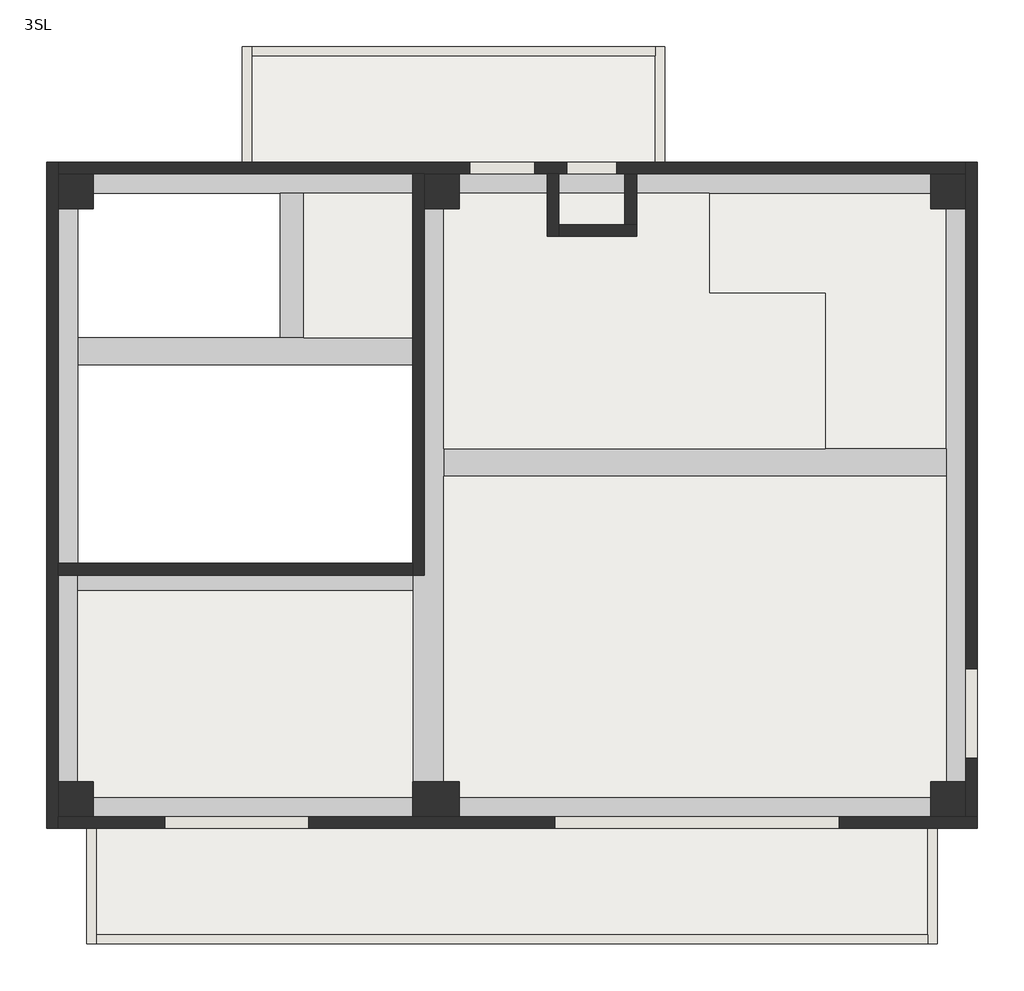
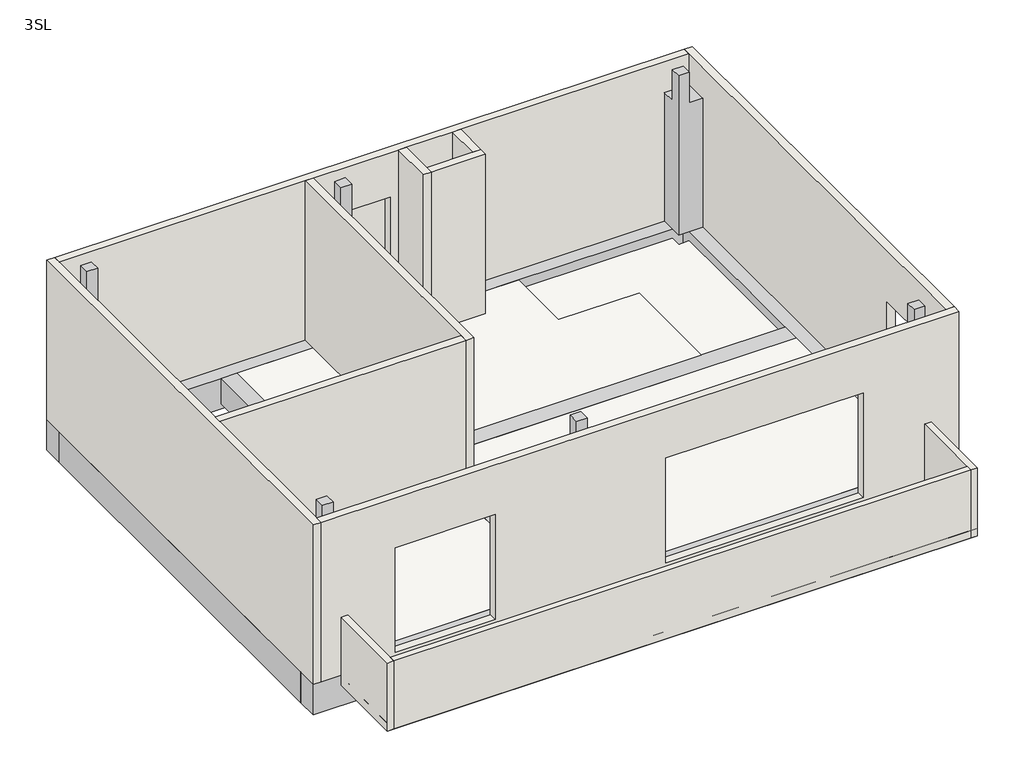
# One storey: 15 walls, 11 beams, 7 slabs, 6 columns.
"""IFC4 building model written with IfcOpenShell, lengths in millimetres."""

from ifc_helpers import new_model, si_unit, frame, origin, place, context, project, spatial, polyline, outline, extrude, faceted_brep, element, save

model = new_model("IFC4")

# Units and contexts
model_context = context("Model", 3, world=origin())
ifc_project = project(units=[si_unit("LENGTHUNIT", "METRE", prefix="MILLI")], contexts=[model_context])

# Site, building, storey
site = spatial("IfcSite", under=ifc_project)
building = spatial("IfcBuilding", under=site)
storey = spatial("IfcBuildingStorey", under=building, Name="3SL", Elevation=6540.0)

# Beams
placement = place(None, origin())
element("IfcBeam", 1, ObjectType="コンクリート-長方形梁 : B1-350x550", at=placement, inside=storey, context=model_context, shape_type="Brep", body=[
    faceted_brep([(325.0, 6225.0, 6540.0), (325.0, 5875.0, 6540.0), (4625.0, 5875.0, 6540.0), (4625.0, 6225.0, 6540.0), (3225.0, 6225.0, 6540.0), (2925.0, 6225.0, 6540.0), (325.0, 5875.0, 5990.0), (4625.0, 5875.0, 5990.0), (325.0, 6225.0, 5990.0), (4625.0, 6225.0, 5990.0)], [[[0, 1, 2, 3, 4, 5]], [[1, 6, 7, 2]], [[6, 8, 9, 7]], [[8, 0, 5, 4, 3, 9]], [[1, 0, 8, 6]], [[3, 2, 7, 9]]]),
])
element("IfcBeam", 2, ObjectType="コンクリート-長方形梁 : B1-350x550", at=placement, inside=storey, context=model_context, shape_type="SweptSolid", body=[
    extrude(outline(polyline([(325.0, 2975.0), (325.0, 3325.0), (4625.0, 3325.0), (4625.0, 2975.0), (325.0, 2975.0)])), frame((0.0, 0.0, 5990.0), z_axis=(0.0, 0.0, 1.0), x_axis=(1.0, 0.0, 0.0)), (0.0, 0.0, 1.0), 550.0),
])
element("IfcBeam", 3, ObjectType="コンクリート-長方形梁 : B1-350x550", at=placement, inside=storey, context=model_context, shape_type="SweptSolid", body=[
    extrude(outline(polyline([(11475.0, 4795.0), (11475.0, 4445.0), (5025.0, 4445.0), (5025.0, 4795.0), (11475.0, 4795.0)])), frame((0.0, 0.0, 5990.0), z_axis=(0.0, 0.0, 1.0), x_axis=(1.0, 0.0, 0.0)), (0.0, 0.0, 1.0), 550.0),
])
element("IfcBeam", 4, ObjectType="コンクリート-長方形梁 : B2-300x500", at=placement, inside=storey, context=model_context, shape_type="SweptSolid", body=[
    extrude(outline(polyline([(2925.0, 8075.0), (3225.0, 8075.0), (3225.0, 6225.0), (2925.0, 6225.0), (2925.0, 8075.0)])), frame((0.0, 0.0, 6040.0), z_axis=(0.0, 0.0, 1.0), x_axis=(1.0, 0.0, 0.0)), (0.0, 0.0, 1.0), 500.0),
])
element("IfcBeam", 5, ObjectType="コンクリート-長方形梁 : G1-400x600", at=placement, inside=storey, context=model_context, shape_type="Brep", body=[
    faceted_brep([(-75.0, 325.0, 6540.0), (-75.0, -75.0, 6540.0), (5025.0, -75.0, 6540.0), (5025.0, 325.0, 6540.0), (4625.0, 325.0, 6540.0), (525.0, 325.0, 6540.0), (325.0, 325.0, 6540.0), (-75.0, -75.0, 5940.0), (5025.0, -75.0, 5940.0), (-75.0, 325.0, 5940.0), (325.0, 325.0, 5940.0), (525.0, 325.0, 5940.0), (4625.0, 325.0, 5940.0), (5025.0, 325.0, 5940.0)], [[[0, 1, 2, 3, 4, 5, 6]], [[1, 7, 8, 2]], [[7, 9, 10, 11, 12, 13, 8]], [[9, 0, 6, 5, 4, 3, 13, 12, 11, 10]], [[1, 0, 9, 7]], [[3, 2, 8, 13]]]),
])
element("IfcBeam", 6, ObjectType="コンクリート-長方形梁 : G1-400x600", at=placement, inside=storey, context=model_context, shape_type="Brep", body=[
    faceted_brep([(5025.0, 325.0, 6540.0), (5025.0, -75.0, 6540.0), (11475.0, -75.0, 6540.0), (11475.0, 325.0, 6540.0), (11275.0, 325.0, 6540.0), (5225.0, 325.0, 6540.0), (5025.0, -75.0, 5940.0), (11475.0, -75.0, 5940.0), (5025.0, 325.0, 5940.0), (5225.0, 325.0, 5940.0), (11275.0, 325.0, 5940.0), (11475.0, 325.0, 5940.0)], [[[0, 1, 2, 3, 4, 5]], [[1, 6, 7, 2]], [[6, 8, 9, 10, 11, 7]], [[8, 0, 5, 4, 3, 11, 10, 9]], [[1, 0, 8, 6]], [[3, 2, 7, 11]]]),
])
element("IfcBeam", 7, ObjectType="コンクリート-長方形梁 : G1-400x600", at=placement, inside=storey, context=model_context, shape_type="Brep", body=[
    faceted_brep([(11875.0, 8475.0, 6540.0), (11475.0, 8475.0, 6540.0), (11475.0, 8075.0, 6540.0), (11475.0, 7875.0, 6540.0), (11475.0, 4795.0, 6540.0), (11475.0, 4445.0, 6540.0), (11475.0, 525.0, 6540.0), (11475.0, 325.0, 6540.0), (11475.0, -75.0, 6540.0), (11875.0, -75.0, 6540.0), (11875.0, 8475.0, 5940.0), (11875.0, -75.0, 5940.0), (11475.0, 8475.0, 5940.0), (11475.0, -75.0, 5940.0), (11475.0, 325.0, 5940.0), (11475.0, 525.0, 5940.0), (11475.0, 7875.0, 5940.0), (11475.0, 8075.0, 5940.0)], [[[0, 1, 2, 3, 4, 5, 6, 7, 8, 9]], [[10, 0, 9, 11]], [[12, 10, 11, 13, 14, 15, 16, 17]], [[1, 12, 17, 16, 15, 14, 13, 8, 7, 6, 5, 4, 3, 2]], [[1, 0, 10, 12]], [[9, 8, 13, 11]]]),
])
element("IfcBeam", 8, ObjectType="コンクリート-長方形梁 : G1-400x600", at=placement, inside=storey, context=model_context, shape_type="Brep", body=[
    faceted_brep([(4625.0, 8475.0, 6540.0), (4625.0, 8075.0, 6540.0), (5025.0, 8075.0, 6540.0), (5225.0, 8075.0, 6540.0), (11275.0, 8075.0, 6540.0), (11475.0, 8075.0, 6540.0), (11475.0, 8475.0, 6540.0), (4625.0, 8475.0, 5940.0), (11475.0, 8475.0, 5940.0), (4625.0, 8075.0, 5940.0), (11475.0, 8075.0, 5940.0), (11275.0, 8075.0, 5940.0), (5225.0, 8075.0, 5940.0), (5025.0, 8075.0, 5940.0)], [[[0, 1, 2, 3, 4, 5, 6]], [[7, 0, 6, 8]], [[9, 7, 8, 10, 11, 12, 13]], [[1, 9, 13, 12, 11, 10, 5, 4, 3, 2]], [[1, 0, 7, 9]], [[6, 5, 10, 8]]]),
])
element("IfcBeam", 9, ObjectType="コンクリート-長方形梁 : G1-400x600", at=placement, inside=storey, context=model_context, shape_type="Brep", body=[
    faceted_brep([(-75.0, 8475.0, 6540.0), (-75.0, 8075.0, 6540.0), (325.0, 8075.0, 6540.0), (525.0, 8075.0, 6540.0), (2925.0, 8075.0, 6540.0), (3225.0, 8075.0, 6540.0), (4625.0, 8075.0, 6540.0), (4625.0, 8475.0, 6540.0), (-75.0, 8475.0, 5940.0), (4625.0, 8475.0, 5940.0), (-75.0, 8075.0, 5940.0), (4625.0, 8075.0, 5940.0), (525.0, 8075.0, 5940.0), (325.0, 8075.0, 5940.0)], [[[0, 1, 2, 3, 4, 5, 6, 7]], [[8, 0, 7, 9]], [[10, 8, 9, 11, 12, 13]], [[1, 10, 13, 12, 11, 6, 5, 4, 3, 2]], [[7, 6, 11, 9]], [[1, 0, 8, 10]]]),
])
element("IfcBeam", 10, ObjectType="コンクリート-長方形梁 : G1-400x600", at=placement, inside=storey, context=model_context, shape_type="Brep", body=[
    faceted_brep([(325.0, 8075.0, 6540.0), (-75.0, 8075.0, 6540.0), (-75.0, 325.0, 6540.0), (325.0, 325.0, 6540.0), (325.0, 525.0, 6540.0), (325.0, 2975.0, 6540.0), (325.0, 3325.0, 6540.0), (325.0, 5875.0, 6540.0), (325.0, 6225.0, 6540.0), (325.0, 7875.0, 6540.0), (-75.0, 8075.0, 5940.0), (-75.0, 325.0, 5940.0), (325.0, 8075.0, 5940.0), (325.0, 7875.0, 5940.0), (325.0, 525.0, 5940.0), (325.0, 325.0, 5940.0)], [[[0, 1, 2, 3, 4, 5, 6, 7, 8, 9]], [[1, 10, 11, 2]], [[10, 12, 13, 14, 15, 11]], [[12, 0, 9, 8, 7, 6, 5, 4, 3, 15, 14, 13]], [[1, 0, 12, 10]], [[3, 2, 11, 15]]]),
])
element("IfcBeam", 11, ObjectType="コンクリート-長方形梁 : G1-400x600", at=placement, inside=storey, context=model_context, shape_type="Brep", body=[
    faceted_brep([(5025.0, 8075.0, 6540.0), (4625.0, 8075.0, 6540.0), (4625.0, 6225.0, 6540.0), (4625.0, 5875.0, 6540.0), (4625.0, 3325.0, 6540.0), (4625.0, 2975.0, 6540.0), (4625.0, 525.0, 6540.0), (5025.0, 525.0, 6540.0), (5025.0, 4445.0, 6540.0), (5025.0, 4795.0, 6540.0), (5025.0, 7875.0, 6540.0), (4625.0, 8075.0, 5940.0), (4625.0, 525.0, 5940.0), (5025.0, 8075.0, 5940.0), (5025.0, 7875.0, 5940.0), (5025.0, 525.0, 5940.0)], [[[0, 1, 2, 3, 4, 5, 6, 7, 8, 9, 10]], [[1, 11, 12, 6, 5, 4, 3, 2]], [[11, 13, 14, 15, 12]], [[13, 0, 10, 9, 8, 7, 15, 14]], [[1, 0, 13, 11]], [[7, 6, 12, 15]]]),
])

# Columns
element("IfcColumn", 12, ObjectType="角柱 : 600 x 600mm", at=placement, inside=storey, context=model_context, shape_type="Brep", body=[
    faceted_brep([(525.0, 7875.0, 9660.0), (525.0, 8075.0, 9660.0), (325.0, 8075.0, 9660.0), (325.0, 7875.0, 9660.0), (525.0, 8325.0, 6540.0), (525.0, 7875.0, 6540.0), (75.0, 7875.0, 6540.0), (75.0, 8325.0, 6540.0), (325.0, 7875.0, 9060.0), (75.0, 7875.0, 9060.0), (525.0, 8325.0, 9060.0), (525.0, 8075.0, 9060.0), (75.0, 8325.0, 9060.0), (325.0, 8075.0, 9060.0)], [[[0, 1, 2, 3]], [[4, 5, 6, 7]], [[5, 0, 3, 8, 9, 6]], [[0, 5, 4, 10, 11, 1]], [[4, 7, 12, 10]], [[7, 6, 9, 12]], [[11, 10, 12, 9, 8, 13]], [[1, 11, 13, 2]], [[13, 8, 3, 2]]]),
])
element("IfcColumn", 13, ObjectType="角柱 : 600 x 600mm", at=placement, inside=storey, context=model_context, shape_type="Brep", body=[
    faceted_brep([(525.0, 525.0, 9660.0), (325.0, 525.0, 9660.0), (325.0, 325.0, 9660.0), (525.0, 325.0, 9660.0), (75.0, 525.0, 6540.0), (525.0, 525.0, 6540.0), (525.0, 75.0, 6540.0), (75.0, 75.0, 6540.0), (75.0, 525.0, 9060.0), (325.0, 525.0, 9060.0), (525.0, 325.0, 9060.0), (525.0, 75.0, 9060.0), (75.0, 75.0, 9060.0), (325.0, 325.0, 9060.0)], [[[0, 1, 2, 3]], [[4, 5, 6, 7]], [[0, 5, 4, 8, 9, 1]], [[5, 0, 3, 10, 11, 6]], [[4, 7, 12, 8]], [[7, 6, 11, 12]], [[9, 8, 12, 11, 10, 13]], [[1, 9, 13, 2]], [[13, 10, 3, 2]]]),
])
element("IfcColumn", 14, ObjectType="角柱 : 600 x 600mm", at=placement, inside=storey, context=model_context, shape_type="Brep", body=[
    faceted_brep([(5225.0, 325.0, 9660.0), (5225.0, 525.0, 9660.0), (5025.0, 525.0, 9660.0), (5025.0, 325.0, 9660.0), (4625.0, 525.0, 6540.0), (5225.0, 525.0, 6540.0), (5225.0, 75.0, 6540.0), (4625.0, 75.0, 6540.0), (4625.0, 525.0, 6575.0), (4625.0, 525.0, 9060.0), (4685.0, 525.0, 9060.0), (4775.0, 525.0, 9060.0), (5025.0, 525.0, 9060.0), (5225.0, 525.0, 6575.0), (4625.0, 75.0, 6575.0), (4625.0, 75.0, 9060.0), (4625.0, 325.0, 9060.0), (5225.0, 325.0, 9060.0), (5225.0, 75.0, 9060.0), (5225.0, 75.0, 6575.0), (5025.0, 75.0, 9060.0), (5025.0, 325.0, 9060.0)], [[[0, 1, 2, 3]], [[4, 5, 6, 7]], [[5, 4, 8, 9, 10, 11, 12, 2, 1, 13]], [[4, 7, 14, 15, 16, 9, 8]], [[5, 13, 1, 0, 17, 18, 19, 6]], [[7, 6, 19, 18, 20, 15, 14]], [[18, 17, 21, 12, 11, 10, 9, 16, 15, 20]], [[17, 0, 3, 21]], [[12, 21, 3, 2]]]),
])
element("IfcColumn", 15, ObjectType="角柱 : 600 x 600mm", at=placement, inside=storey, context=model_context, shape_type="Brep", body=[
    faceted_brep([(11475.0, 525.0, 9660.0), (11275.0, 525.0, 9660.0), (11275.0, 325.0, 9660.0), (11475.0, 325.0, 9660.0), (11275.0, 75.0, 6540.0), (11275.0, 525.0, 6540.0), (11725.0, 525.0, 6540.0), (11725.0, 75.0, 6540.0), (11475.0, 525.0, 9060.0), (11725.0, 525.0, 9060.0), (11275.0, 75.0, 9060.0), (11275.0, 325.0, 9060.0), (11725.0, 75.0, 9060.0), (11475.0, 325.0, 9060.0)], [[[0, 1, 2, 3]], [[4, 5, 6, 7]], [[5, 1, 0, 8, 9, 6]], [[1, 5, 4, 10, 11, 2]], [[4, 7, 12, 10]], [[7, 6, 9, 12]], [[9, 8, 13, 11, 10, 12]], [[8, 0, 3, 13]], [[11, 13, 3, 2]]]),
])
element("IfcColumn", 16, ObjectType="角柱 : 600 x 600mm", at=placement, inside=storey, context=model_context, shape_type="Brep", body=[
    faceted_brep([(11275.0, 8075.0, 9660.0), (11275.0, 7875.0, 9660.0), (11475.0, 7875.0, 9660.0), (11475.0, 8075.0, 9660.0), (11725.0, 7875.0, 6540.0), (11275.0, 7875.0, 6540.0), (11275.0, 8325.0, 6540.0), (11725.0, 8325.0, 6540.0), (11275.0, 8075.0, 9060.0), (11275.0, 8325.0, 9060.0), (11725.0, 7875.0, 9060.0), (11475.0, 7875.0, 9060.0), (11725.0, 8325.0, 9060.0), (11475.0, 8075.0, 9060.0)], [[[0, 1, 2, 3]], [[4, 5, 6, 7]], [[5, 1, 0, 8, 9, 6]], [[1, 5, 4, 10, 11, 2]], [[4, 7, 12, 10]], [[7, 6, 9, 12]], [[9, 8, 13, 11, 10, 12]], [[8, 0, 3, 13]], [[11, 13, 3, 2]]]),
])
element("IfcColumn", 17, ObjectType="角柱 : 600 x 600mm", at=placement, inside=storey, context=model_context, shape_type="Brep", body=[
    faceted_brep([(5225.0, 7875.0, 9660.0), (5225.0, 8075.0, 9660.0), (5025.0, 8075.0, 9660.0), (5025.0, 7875.0, 9660.0), (5225.0, 7875.0, 6540.0), (4775.0, 7875.0, 6540.0), (4775.0, 8325.0, 6540.0), (5225.0, 8325.0, 6540.0), (5025.0, 7875.0, 9060.0), (4775.0, 7875.0, 9060.0), (5225.0, 8325.0, 9060.0), (5225.0, 8075.0, 9060.0), (4775.0, 8325.0, 9060.0), (5025.0, 8075.0, 9060.0)], [[[0, 1, 2, 3]], [[4, 5, 6, 7]], [[4, 0, 3, 8, 9, 5]], [[0, 4, 7, 10, 11, 1]], [[6, 5, 9, 12]], [[7, 6, 12, 10]], [[11, 10, 12, 9, 8, 13]], [[1, 11, 13, 2]], [[13, 8, 3, 2]]]),
])

# Slabs
element("IfcSlab", 18, ObjectType="一般180mm", at=placement, inside=storey, context=model_context, shape_type="SweptSolid", body=[
    extrude(outline(polyline([(4625.0, 2975.0), (4625.0, 325.0), (525.0, 325.0), (525.0, 525.0), (325.0, 525.0), (325.0, 2975.0), (4625.0, 2975.0)])), frame((0.0, 0.0, 6360.0), z_axis=(0.0, 0.0, 1.0), x_axis=(1.0, 0.0, 0.0)), (0.0, 0.0, 1.0), 180.0),
])
element("IfcSlab", 19, ObjectType="一般180mm", at=placement, inside=storey, context=model_context, shape_type="SweptSolid", body=[
    extrude(outline(polyline([(5025.0, 525.0), (5025.0, 4445.0), (11475.0, 4445.0), (11475.0, 525.0), (11275.0, 525.0), (11275.0, 325.0), (5225.0, 325.0), (5225.0, 525.0), (5025.0, 525.0)])), frame((0.0, 0.0, 6360.0), z_axis=(0.0, 0.0, 1.0), x_axis=(1.0, 0.0, 0.0)), (0.0, 0.0, 1.0), 180.0),
])
element("IfcSlab", 20, ObjectType="一般180mm", at=placement, inside=storey, context=model_context, shape_type="SweptSolid", body=[
    extrude(outline(polyline([(5225.0, 7875.0), (5225.0, 8075.0), (8430.0, 8075.0), (8430.0, 6795.0), (9920.0, 6795.0), (9920.0, 4795.0), (5025.0, 4795.0), (5025.0, 7875.0), (5225.0, 7875.0)])), frame((0.0, 0.0, 6360.0), z_axis=(0.0, 0.0, 1.0), x_axis=(1.0, 0.0, 0.0)), (0.0, 0.0, 1.0), 180.0),
])
element("IfcSlab", 21, ObjectType="一般180mm", at=placement, inside=storey, context=model_context, shape_type="SweptSolid", body=[
    extrude(outline(polyline([(11275.0, 7875.0), (11475.0, 7875.0), (11475.0, 4795.0), (9560.0, 4795.0), (9560.0, 6435.0), (8070.0, 6435.0), (8070.0, 8075.0), (11275.0, 8075.0), (11275.0, 7875.0)])), frame((0.0, 0.0, 6180.0), z_axis=(0.0, 0.0, 1.0), x_axis=(1.0, 0.0, 0.0)), (0.0, 0.0, 1.0), 180.0),
])
element("IfcSlab", 22, ObjectType="一般180mm", at=placement, inside=storey, context=model_context, shape_type="SweptSolid", body=[
    extrude(outline(polyline([(-75.0, 6345.0), (-1560.0, 6345.0), (-1560.0, 6495.0), (-75.0, 6525.0), (-75.0, 6345.0)])), frame((440.0, 0.0, 0.0), z_axis=(1.0, 0.0, 0.0), x_axis=(0.0, 1.0, 0.0)), (0.0, 0.0, 1.0), 10920.0),
])
element("IfcSlab", 23, ObjectType="一般180mm", at=placement, inside=storey, context=model_context, shape_type="SweptSolid", body=[
    extrude(outline(polyline([(9960.0, 6345.0), (8475.0, 6345.0), (8475.0, 6525.0), (9960.0, 6495.0), (9960.0, 6345.0)])), frame((2440.0, 0.0, 0.0), z_axis=(1.0, 0.0, 0.0), x_axis=(0.0, 1.0, 0.0)), (0.0, 0.0, 1.0), 5420.0),
])
element("IfcSlab", 24, ObjectType="一般180mm", at=placement, inside=storey, context=model_context, shape_type="SweptSolid", body=[
    extrude(outline(polyline([(3225.0, 8075.0), (4625.0, 8075.0), (4625.0, 6225.0), (3225.0, 6225.0), (3225.0, 8075.0)])), frame((0.0, 0.0, 6360.0), z_axis=(0.0, 0.0, 1.0), x_axis=(1.0, 0.0, 0.0)), (0.0, 0.0, 1.0), 180.0),
])

# Walls
element("IfcWall", 25, ObjectType="標準-120mm", at=placement, inside=storey, context=model_context, shape_type="Brep", body=[
    faceted_brep([(440.0, -75.0, 7675.0), (440.0, -75.0, 6345.0), (440.0, -1560.0, 6345.0), (440.0, -1560.0, 7675.0), (560.0, -75.0, 6345.0), (560.0, -75.0, 7675.0), (560.0, -1440.0, 7675.0), (560.0, -1560.0, 7675.0), (560.0, -1560.0, 6345.0), (560.0, -1440.0, 6345.0)], [[[0, 1, 2, 3]], [[4, 5, 6, 7, 8, 9]], [[2, 1, 4, 9, 8]], [[0, 3, 7, 6, 5]], [[3, 2, 8, 7]], [[0, 5, 4, 1]]]),
])
element("IfcWall", 26, ObjectType="標準-120mm", at=placement, inside=storey, context=model_context, shape_type="Brep", body=[
    faceted_brep([(11240.0, -75.0, 7675.0), (11240.0, -75.0, 6345.0), (11240.0, -1440.0, 6345.0), (11240.0, -1560.0, 6345.0), (11240.0, -1560.0, 7675.0), (11240.0, -1440.0, 7675.0), (11360.0, -75.0, 6345.0), (11360.0, -75.0, 7675.0), (11360.0, -1560.0, 7675.0), (11360.0, -1560.0, 6345.0)], [[[0, 1, 2, 3, 4, 5]], [[6, 7, 8, 9]], [[3, 2, 1, 6, 9]], [[0, 5, 4, 8, 7]], [[4, 3, 9, 8]], [[0, 7, 6, 1]]]),
])
element("IfcWall", 27, ObjectType="標準-120mm", at=placement, inside=storey, context=model_context, shape_type="SweptSolid", body=[
    extrude(outline(polyline([(560.0, -1440.0), (11240.0, -1440.0), (11240.0, -1560.0), (560.0, -1560.0), (560.0, -1440.0)])), frame((0.0, 0.0, 6345.0), z_axis=(0.0, 0.0, 1.0), x_axis=(1.0, 0.0, 0.0)), (0.0, 0.0, 1.0), 1330.0),
])
element("IfcWall", 28, ObjectType="標準-120mm", at=placement, inside=storey, context=model_context, shape_type="Brep", body=[
    faceted_brep([(2560.0, 8475.0, 7675.0), (2560.0, 8475.0, 6345.0), (2560.0, 9840.0, 6345.0), (2560.0, 9960.0, 6345.0), (2560.0, 9960.0, 7675.0), (2560.0, 9840.0, 7675.0), (2440.0, 8475.0, 6345.0), (2440.0, 8475.0, 7675.0), (2440.0, 9960.0, 7675.0), (2440.0, 9960.0, 6345.0)], [[[0, 1, 2, 3, 4, 5]], [[6, 7, 8, 9]], [[3, 2, 1, 6, 9]], [[0, 5, 4, 8, 7]], [[4, 3, 9, 8]], [[0, 7, 6, 1]]]),
])
element("IfcWall", 29, ObjectType="標準-120mm", at=placement, inside=storey, context=model_context, shape_type="Brep", body=[
    faceted_brep([(7860.0, 8475.0, 7675.0), (7860.0, 8475.0, 6345.0), (7860.0, 9960.0, 6345.0), (7860.0, 9960.0, 7675.0), (7740.0, 8475.0, 6345.0), (7740.0, 8475.0, 7675.0), (7740.0, 9840.0, 7675.0), (7740.0, 9960.0, 7675.0), (7740.0, 9960.0, 6345.0), (7740.0, 9840.0, 6345.0)], [[[0, 1, 2, 3]], [[4, 5, 6, 7, 8, 9]], [[2, 1, 4, 9, 8]], [[0, 3, 7, 6, 5]], [[3, 2, 8, 7]], [[0, 5, 4, 1]]]),
])
element("IfcWall", 30, ObjectType="標準-120mm", at=placement, inside=storey, context=model_context, shape_type="SweptSolid", body=[
    extrude(outline(polyline([(7740.0, 9840.0), (2560.0, 9840.0), (2560.0, 9960.0), (7740.0, 9960.0), (7740.0, 9840.0)])), frame((0.0, 0.0, 6345.0), z_axis=(0.0, 0.0, 1.0), x_axis=(1.0, 0.0, 0.0)), (0.0, 0.0, 1.0), 1330.0),
])
element("IfcWall", 31, ObjectType="標準-150mm", at=placement, inside=storey, context=model_context, shape_type="Brep", body=[
    faceted_brep([(-75.0, 8475.0, 6540.0), (-75.0, -75.0, 6540.0), (-75.0, -75.0, 9660.0), (-75.0, 8475.0, 9660.0), (75.0, 8475.0, 6540.0), (75.0, 8475.0, 9660.0), (75.0, 8325.0, 9660.0), (75.0, 3325.0, 9660.0), (75.0, 3175.0, 9660.0), (75.0, 75.0, 9660.0), (75.0, -75.0, 9660.0), (75.0, -75.0, 6540.0), (75.0, 75.0, 6540.0), (75.0, 525.0, 6540.0), (75.0, 3175.0, 6540.0), (75.0, 3325.0, 6540.0), (75.0, 7875.0, 6540.0), (75.0, 8325.0, 6540.0)], [[[0, 1, 2, 3]], [[4, 5, 6, 7, 8, 9, 10, 11, 12, 13, 14, 15, 16, 17]], [[1, 0, 4, 17, 16, 15, 14, 13, 12, 11]], [[3, 2, 10, 9, 8, 7, 6, 5]], [[2, 1, 11, 10]], [[0, 3, 5, 4]]]),
])
element("IfcWall", 32, ObjectType="標準-150mm", at=placement, inside=storey, context=model_context, shape_type="Brep", body=[
    faceted_brep([(75.0, -75.0, 6540.0), (11875.0, -75.0, 6540.0), (11875.0, -75.0, 9660.0), (75.0, -75.0, 9660.0), (10100.0, -75.0, 6635.0), (6450.0, -75.0, 6635.0), (6450.0, -75.0, 8685.0), (10100.0, -75.0, 8685.0), (1440.0, -75.0, 8685.0), (3290.0, -75.0, 8685.0), (3290.0, -75.0, 6635.0), (1440.0, -75.0, 6635.0), (75.0, 75.0, 6540.0), (75.0, 75.0, 9060.0), (75.0, 75.0, 9660.0), (11725.0, 75.0, 9660.0), (11875.0, 75.0, 9660.0), (11875.0, 75.0, 6540.0), (11725.0, 75.0, 6540.0), (11275.0, 75.0, 6540.0), (5225.0, 75.0, 6540.0), (4625.0, 75.0, 6540.0), (525.0, 75.0, 6540.0), (10100.0, 75.0, 6635.0), (10100.0, 75.0, 8685.0), (6450.0, 75.0, 8685.0), (6450.0, 75.0, 6635.0), (1440.0, 75.0, 8685.0), (1440.0, 75.0, 6635.0), (3290.0, 75.0, 6635.0), (3290.0, 75.0, 8685.0)], [[[0, 1, 2, 3], [4, 5, 6, 7], [8, 9, 10, 11]], [[12, 13, 14, 15, 16, 17, 18, 19, 20, 21, 22], [23, 24, 25, 26], [27, 28, 29, 30]], [[1, 0, 12, 22, 21, 20, 19, 18, 17]], [[3, 2, 16, 15, 14]], [[0, 3, 14, 13, 12]], [[2, 1, 17, 16]], [[24, 23, 4, 7]], [[25, 24, 7, 6]], [[26, 25, 6, 5]], [[23, 26, 5, 4]], [[28, 27, 8, 11]], [[29, 28, 11, 10]], [[30, 29, 10, 9]], [[27, 30, 9, 8]]]),
])
element("IfcWall", 33, ObjectType="標準-150mm", at=placement, inside=storey, context=model_context, shape_type="Brep", body=[
    faceted_brep([(11875.0, 75.0, 6540.0), (11875.0, 8475.0, 6540.0), (11875.0, 8475.0, 9660.0), (11875.0, 75.0, 9660.0), (11875.0, 825.0, 8650.0), (11875.0, 1975.0, 8650.0), (11875.0, 1975.0, 7400.0), (11875.0, 825.0, 7400.0), (11725.0, 75.0, 6540.0), (11725.0, 75.0, 9060.0), (11725.0, 75.0, 9660.0), (11725.0, 8325.0, 9660.0), (11725.0, 8475.0, 9660.0), (11725.0, 8475.0, 6540.0), (11725.0, 8325.0, 6540.0), (11725.0, 7875.0, 6540.0), (11725.0, 525.0, 6540.0), (11725.0, 825.0, 8650.0), (11725.0, 825.0, 7400.0), (11725.0, 1975.0, 7400.0), (11725.0, 1975.0, 8650.0)], [[[0, 1, 2, 3], [4, 5, 6, 7]], [[8, 9, 10, 11, 12, 13, 14, 15, 16], [17, 18, 19, 20]], [[1, 0, 8, 16, 15, 14, 13]], [[3, 2, 12, 11, 10]], [[0, 3, 10, 9, 8]], [[2, 1, 13, 12]], [[18, 17, 4, 7]], [[19, 18, 7, 6]], [[20, 19, 6, 5]], [[17, 20, 5, 4]]]),
])
element("IfcWall", 34, ObjectType="標準-150mm", at=placement, inside=storey, context=model_context, shape_type="Brep", body=[
    faceted_brep([(11725.0, 8475.0, 6540.0), (75.0, 8475.0, 6540.0), (75.0, 8475.0, 9660.0), (11725.0, 8475.0, 9660.0), (6195.0, 8475.0, 8795.0), (5355.0, 8475.0, 8795.0), (5355.0, 8475.0, 6575.0), (6195.0, 8475.0, 6575.0), (7245.0, 8475.0, 8795.0), (6605.0, 8475.0, 8795.0), (6605.0, 8475.0, 6575.0), (7245.0, 8475.0, 6575.0), (11725.0, 8325.0, 6540.0), (11725.0, 8325.0, 9060.0), (11725.0, 8325.0, 9660.0), (7500.0, 8325.0, 9660.0), (7350.0, 8325.0, 9660.0), (6500.0, 8325.0, 9660.0), (6350.0, 8325.0, 9660.0), (4775.0, 8325.0, 9660.0), (4625.0, 8325.0, 9660.0), (75.0, 8325.0, 9660.0), (75.0, 8325.0, 9060.0), (75.0, 8325.0, 6540.0), (525.0, 8325.0, 6540.0), (4625.0, 8325.0, 6540.0), (4775.0, 8325.0, 6540.0), (5225.0, 8325.0, 6540.0), (6350.0, 8325.0, 6540.0), (6500.0, 8325.0, 6540.0), (7350.0, 8325.0, 6540.0), (7500.0, 8325.0, 6540.0), (8340.0, 8325.0, 6540.0), (8430.0, 8325.0, 6540.0), (11275.0, 8325.0, 6540.0), (6195.0, 8325.0, 8795.0), (6195.0, 8325.0, 6575.0), (5355.0, 8325.0, 6575.0), (5355.0, 8325.0, 8795.0), (7245.0, 8325.0, 8795.0), (7245.0, 8325.0, 6575.0), (6605.0, 8325.0, 6575.0), (6605.0, 8325.0, 8795.0)], [[[0, 1, 2, 3], [4, 5, 6, 7], [8, 9, 10, 11]], [[12, 13, 14, 15, 16, 17, 18, 19, 20, 21, 22, 23, 24, 25, 26, 27, 28, 29, 30, 31, 32, 33, 34], [35, 36, 37, 38], [39, 40, 41, 42]], [[1, 0, 12, 34, 33, 32, 31, 30, 29, 28, 27, 26, 25, 24, 23]], [[3, 2, 21, 20, 19, 18, 17, 16, 15, 14]], [[0, 3, 14, 13, 12]], [[2, 1, 23, 22, 21]], [[36, 35, 4, 7]], [[37, 36, 7, 6]], [[38, 37, 6, 5]], [[35, 38, 5, 4]], [[40, 39, 8, 11]], [[41, 40, 11, 10]], [[42, 41, 10, 9]], [[39, 42, 9, 8]]]),
])
element("IfcWall", 35, ObjectType="標準-150mm", at=placement, inside=storey, context=model_context, shape_type="Brep", body=[
    faceted_brep([(4625.0, 8325.0, 6540.0), (4625.0, 3325.0, 6540.0), (4625.0, 3175.0, 6540.0), (4625.0, 3175.0, 9660.0), (4625.0, 3325.0, 9660.0), (4625.0, 8325.0, 9660.0), (4775.0, 8325.0, 6540.0), (4775.0, 8325.0, 9060.0), (4775.0, 8325.0, 9660.0), (4775.0, 3175.0, 9660.0), (4775.0, 3175.0, 6540.0), (4775.0, 7875.0, 6540.0)], [[[0, 1, 2, 3, 4, 5]], [[6, 7, 8, 9, 10, 11]], [[2, 1, 0, 6, 11, 10]], [[5, 4, 3, 9, 8]], [[2, 10, 9, 3]], [[0, 5, 8, 7, 6]]]),
])
element("IfcWall", 36, ObjectType="標準-150mm", at=placement, inside=storey, context=model_context, shape_type="SweptSolid", body=[
    extrude(outline(polyline([(75.0, 3325.0), (4625.0, 3325.0), (4625.0, 3175.0), (75.0, 3175.0), (75.0, 3325.0)])), frame((0.0, 0.0, 6540.0), z_axis=(0.0, 0.0, 1.0), x_axis=(1.0, 0.0, 0.0)), (0.0, 0.0, 1.0), 3120.0),
])
element("IfcWall", 37, ObjectType="標準-150mm", at=placement, inside=storey, context=model_context, shape_type="Brep", body=[
    faceted_brep([(6350.0, 8325.0, 6540.0), (6350.0, 7525.0, 6540.0), (6350.0, 7525.0, 9660.0), (6350.0, 8325.0, 9660.0), (6500.0, 8325.0, 6540.0), (6500.0, 8325.0, 9660.0), (6500.0, 7675.0, 9660.0), (6500.0, 7525.0, 9660.0), (6500.0, 7525.0, 6540.0), (6500.0, 7675.0, 6540.0), (6440.0, 7525.0, 6540.0)], [[[0, 1, 2, 3]], [[4, 5, 6, 7, 8, 9]], [[1, 0, 4, 9, 8, 10]], [[3, 2, 7, 6, 5]], [[0, 3, 5, 4]], [[1, 10, 8, 7, 2]]]),
])
element("IfcWall", 38, ObjectType="標準-150mm", at=placement, inside=storey, context=model_context, shape_type="Brep", body=[
    faceted_brep([(6500.0, 7525.0, 9660.0), (6500.0, 7525.0, 6540.0), (7500.0, 7525.0, 6540.0), (7500.0, 7525.0, 6575.0), (7500.0, 7525.0, 8975.0), (7500.0, 7525.0, 9660.0), (6500.0, 7675.0, 6540.0), (6500.0, 7675.0, 9660.0), (7350.0, 7675.0, 9660.0), (7500.0, 7675.0, 9660.0), (7500.0, 7675.0, 6540.0), (7350.0, 7675.0, 6540.0)], [[[0, 1, 2, 3, 4, 5]], [[6, 7, 8, 9, 10, 11]], [[2, 1, 6, 11, 10]], [[0, 5, 9, 8, 7]], [[2, 10, 9, 5, 4, 3]], [[0, 7, 6, 1]]]),
])
element("IfcWall", 39, ObjectType="標準-150mm", at=placement, inside=storey, context=model_context, shape_type="SweptSolid", body=[
    extrude(outline(polyline([(7500.0, 8325.0), (7500.0, 7675.0), (7350.0, 7675.0), (7350.0, 8325.0), (7500.0, 8325.0)])), frame((0.0, 0.0, 6540.0), z_axis=(0.0, 0.0, 1.0), x_axis=(1.0, 0.0, 0.0)), (0.0, 0.0, 1.0), 3120.0),
])

save(model, "model.ifc")
